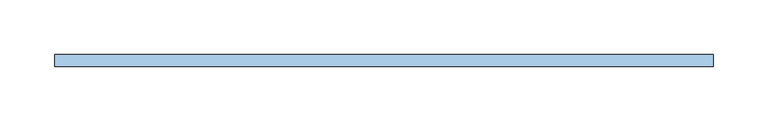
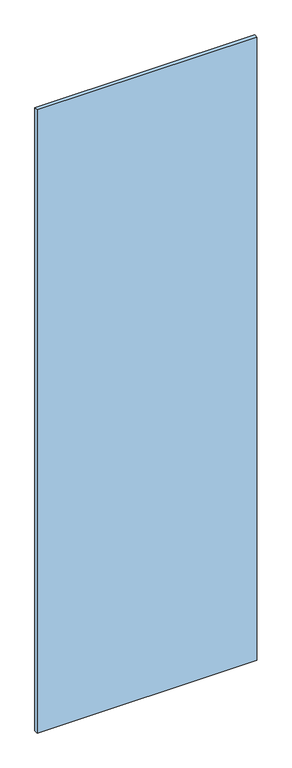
"""IFC4 building model written with IfcOpenShell, lengths in millimetres: window geometry, Baño 1 Hueco lateral : CA-4-cancel baño-1.455 2 2 2."""

import ifcopenshell
import ifcopenshell.guid

model = None  # the IFC model being written
_history = None  # IfcOwnerHistory: only IFC2X3 demands one
_inside = {}  # id of a spatial element -> (the spatial element, [elements in it])
_under = {}  # id of a project, library or spatial element -> (it, [spatial elements below it])
_declared = {}  # id of a project -> (the project, [libraries it declares])
_typed = {}  # id of a type object -> (the type object, [elements of that type])
_made_of = {}  # id of a material, layer set ... -> (it, [elements and type objects made of it])


def new_model(schema):
    """Start an empty IFC model of exactly this schema.

    Asked for "IFC4X3", IfcOpenShell would pick the latest addendum, in which some entities
    have other attributes; the version numbers below select the first issue.
    IFC2X3 requires an IfcOwnerHistory on every rooted entity: one is made here for all.
    """
    global model, _history
    if schema == "IFC4X3":
        model = ifcopenshell.file(schema_version=(4, 3, 0, 0))
    else:
        model = ifcopenshell.file(schema=schema)
    _inside.clear()
    _under.clear()
    _declared.clear()
    _typed.clear()
    _made_of.clear()
    _history = None
    if model.schema == "IFC2X3":
        org = make("IfcOrganization", Name="unknown")
        user = make(
            "IfcPersonAndOrganization",
            ThePerson=make("IfcPerson", FamilyName="unknown"),
            TheOrganization=org,
        )
        app = make(
            "IfcApplication",
            ApplicationDeveloper=org,
            Version="unknown",
            ApplicationFullName="unknown",
            ApplicationIdentifier="unknown",
        )
        _history = make(
            "IfcOwnerHistory",
            OwningUser=user,
            OwningApplication=app,
            ChangeAction="ADDED",
            CreationDate=0,
        )
    return model


def make(cls, **values):
    """One entity of the class cls with the attributes given. An attribute that is None is left unset."""
    return model.create_entity(
        cls, **{name: value for name, value in values.items() if value is not None}
    )


def rooted(cls, **values):
    """An entity with a GlobalId (a new one), such as an element, a storey or a relation."""
    return make(cls, GlobalId=ifcopenshell.guid.new(), OwnerHistory=_history, **values)


def si_unit(unit_type, name, prefix=None):
    """IfcSIUnit, for example si_unit("LENGTHUNIT", "METRE", prefix="MILLI")."""
    return make("IfcSIUnit", UnitType=unit_type, Prefix=prefix, Name=name)


def assignment(units):
    """IfcUnitAssignment: the units of a project."""
    return None if units is None else make("IfcUnitAssignment", Units=units)


def point(xyz):
    """IfcCartesianPoint."""
    return None if xyz is None else make("IfcCartesianPoint", Coordinates=xyz)


def direction(xyz):
    """IfcDirection."""
    return None if xyz is None else make("IfcDirection", DirectionRatios=xyz)


def frame(location, z_axis=None, x_axis=None):
    """IfcAxis2Placement3D, a coordinate frame: its origin and axes. An axis left out is left unset."""
    return make(
        "IfcAxis2Placement3D",
        Location=point(location),
        Axis=direction(z_axis),
        RefDirection=direction(x_axis),
    )


def origin():
    """The frame at (0, 0, 0) with its axes left unset."""
    return frame((0.0, 0.0, 0.0))


def origin_with_axes():
    """The frame at (0, 0, 0) with the z axis (0, 0, 1) and the x axis (1, 0, 0) written out."""
    return frame((0.0, 0.0, 0.0), z_axis=(0.0, 0.0, 1.0), x_axis=(1.0, 0.0, 0.0))


def place(relative_to, where):
    """IfcLocalPlacement: puts the frame where relative to a parent placement (None: the world)."""
    return make(
        "IfcLocalPlacement", PlacementRelTo=relative_to, RelativePlacement=where
    )


def context(
    kind, dimensions, precision=None, world=None, true_north=None, identifier=None
):
    """IfcGeometricRepresentationContext, for example the 3D "Model" context."""
    return make(
        "IfcGeometricRepresentationContext",
        ContextIdentifier=identifier,
        ContextType=kind,
        CoordinateSpaceDimension=dimensions,
        Precision=precision,
        WorldCoordinateSystem=world,
        TrueNorth=true_north,
    )


def project(units=None, contexts=None):
    """IfcProject with its units and contexts."""
    return rooted(
        "IfcProject",
        Name="project",
        RepresentationContexts=contexts,
        UnitsInContext=assignment(units),
    )


def spatial(cls, under=None, at=None, **own):
    """A site, building, storey or space (cls), placed at a placement, below another one or the project."""
    s = rooted(cls, ObjectPlacement=at, **own)
    if under is not None:
        _under.setdefault(under.id(), (under, []))[1].append(s)
    return s


def polyline(points):
    """IfcPolyline through the points."""
    return make("IfcPolyline", Points=[point(p) for p in points])


def outline(outer, holes=None, kind="AREA"):
    """IfcArbitraryClosedProfileDef: a profile drawn as a closed curve; with holes, ...WithVoids."""
    if holes is None:
        return make("IfcArbitraryClosedProfileDef", ProfileType=kind, OuterCurve=outer)
    return make(
        "IfcArbitraryProfileDefWithVoids",
        ProfileType=kind,
        OuterCurve=outer,
        InnerCurves=holes,
    )


def extrude(swept, where, along, depth):
    """IfcExtrudedAreaSolid: the profile swept, set in the frame where, extruded along a direction by depth."""
    return make(
        "IfcExtrudedAreaSolid",
        SweptArea=swept,
        Position=where,
        ExtrudedDirection=direction(along),
        Depth=depth,
    )


def shape(context_of_items, identifier, shape_type, items):
    """IfcShapeRepresentation: the items that make up one representation, for example the "Body"."""
    return make(
        "IfcShapeRepresentation",
        ContextOfItems=context_of_items,
        RepresentationIdentifier=identifier,
        RepresentationType=shape_type,
        Items=items,
    )


def source(mapping_origin, context_of_items, identifier, shape_type, items):
    """IfcRepresentationMap: a shape defined once, which mapped items show again and again."""
    return make(
        "IfcRepresentationMap",
        MappingOrigin=mapping_origin,
        MappedRepresentation=shape(context_of_items, identifier, shape_type, items),
    )


def transform(
    local_origin,
    x_axis=None,
    y_axis=None,
    z_axis=None,
    scale=None,
    scale2=None,
    scale3=None,
    uniform=True,
):
    """IfcCartesianTransformationOperator3D, or its non-uniform kind. x_axis, y_axis, z_axis: its Axis1, 2, 3."""
    if uniform:
        return make(
            "IfcCartesianTransformationOperator3D",
            Axis1=direction(x_axis),
            Axis2=direction(y_axis),
            LocalOrigin=point(local_origin),
            Scale=scale,
            Axis3=direction(z_axis),
        )
    return make(
        "IfcCartesianTransformationOperator3DnonUniform",
        Axis1=direction(x_axis),
        Axis2=direction(y_axis),
        LocalOrigin=point(local_origin),
        Scale=scale,
        Axis3=direction(z_axis),
        Scale2=scale2,
        Scale3=scale3,
    )


def mapped(mapping_source, mapping_target):
    """IfcMappedItem: shows the shape of a source again, moved by a transform."""
    return make(
        "IfcMappedItem", MappingSource=mapping_source, MappingTarget=mapping_target
    )


def made_of(thing, what):
    """Note that an element or type object is made of a material, layer set ...; save() writes the relation."""
    if what is not None:
        _made_of.setdefault(what.id(), (what, []))[1].append(thing)
    return thing


def element(
    cls,
    number,
    at=None,
    inside=None,
    cuts=None,
    type_object=None,
    material=None,
    context=None,
    identifier="Body",
    shape_type=None,
    held_by="IfcProductDefinitionShape",
    body=None,
    shapes=None,
    **own,
):
    """One element of the class cls, such as IfcWall. Its Tag is "e" and its number.

    at: its placement. inside: the storey or other place that contains it. cuts: it is an
    opening in that element (IfcRelVoidsElement). A single representation is given by context,
    identifier, shape_type and body (its items); several are given by shapes. held_by: the class
    of the entity that holds the representations. save() writes the other relations.
    """
    e = rooted(cls, Tag="e%d" % number, ObjectPlacement=at, **own)
    if body is not None:
        shapes = [shape(context, identifier, shape_type, body)]
    if shapes is not None:
        e.Representation = make(held_by, Representations=shapes)
    if inside is not None:
        _inside.setdefault(inside.id(), (inside, []))[1].append(e)
    if cuts is not None:
        rooted(
            "IfcRelVoidsElement", RelatingBuildingElement=cuts, RelatedOpeningElement=e
        )
    if type_object is not None:
        _typed.setdefault(type_object.id(), (type_object, []))[1].append(e)
    return made_of(e, material)


def aggregate(whole, parts):
    """IfcRelAggregates: a whole, such as a stair, and the parts it consists of."""
    return rooted("IfcRelAggregates", RelatingObject=whole, RelatedObjects=parts)


def save(model, path):
    """Write the relations noted so far, then the file.

    IfcRelAggregates (storeys below a building ...), IfcRelContainedInSpatialStructure (elements
    in a storey), IfcRelDefinesByType, IfcRelAssociatesMaterial and IfcRelDeclares: one each for
    every whole, place, type object, material and project.
    """
    for whole, parts in _under.values():
        aggregate(whole, parts)
    for where, things in _inside.values():
        rooted(
            "IfcRelContainedInSpatialStructure",
            RelatedElements=things,
            RelatingStructure=where,
        )
    for kind, things in _typed.values():
        rooted("IfcRelDefinesByType", RelatedObjects=things, RelatingType=kind)
    for what, things in _made_of.values():
        rooted("IfcRelAssociatesMaterial", RelatedObjects=things, RelatingMaterial=what)
    for by, libraries in _declared.values():
        rooted("IfcRelDeclares", RelatingContext=by, RelatedDefinitions=libraries)
    model.write(path)


def window_2864011b(model_context):
    return source(origin(), model_context, "Body", "SweptSolid", [
        extrude(outline(polyline([(-600.0, 5.5), (0.0, 5.5), (0.0, -5.5), (-600.0, -5.5), (-600.0, 5.5)])), origin_with_axes(), (0.0, 0.0, 1.0), 1800.0),
    ])


if __name__ == "__main__":
    model = new_model("IFC4")
    model_context = context("Model", 3, world=origin())
    ifc_project = project(units=[si_unit("LENGTHUNIT", "METRE", prefix="MILLI")], contexts=[model_context])
    site = spatial("IfcSite", under=ifc_project)
    building = spatial("IfcBuilding", under=site)
    placement = place(None, origin())
    window_shape = window_2864011b(model_context)
    element("IfcWindow", 1, ObjectType="Baño 1 Hueco lateral : CA-4-cancel baño-1.455 2 2 2", at=placement, inside=building, context=model_context, shape_type="MappedRepresentation", body=[
        mapped(window_shape, transform((0.0, 0.0, 0.0), x_axis=(1.0, 0.0, 0.0), y_axis=(0.0, 1.0, 0.0), z_axis=(0.0, 0.0, 1.0))),
    ])
    save(model, "model.ifc")
